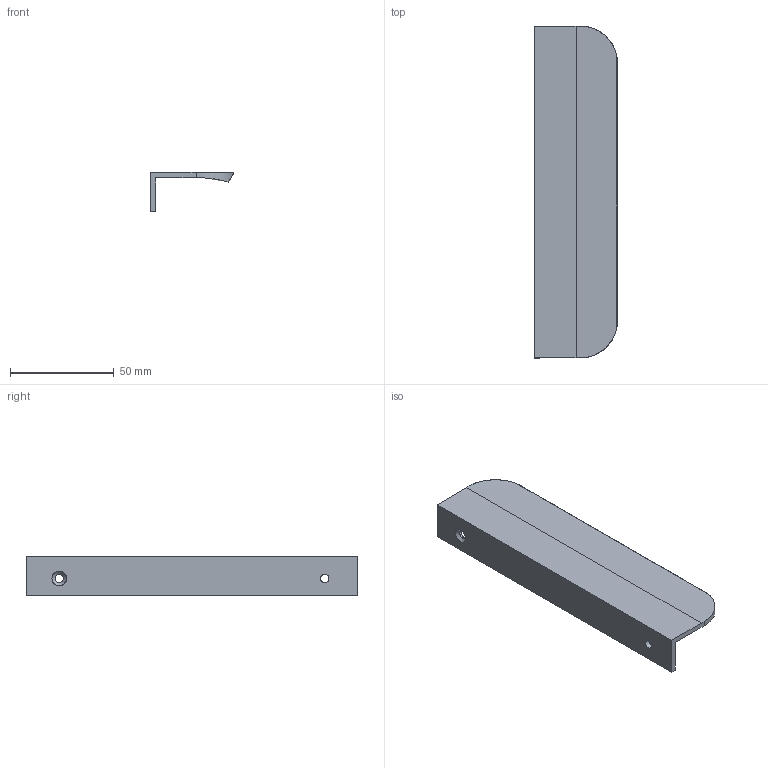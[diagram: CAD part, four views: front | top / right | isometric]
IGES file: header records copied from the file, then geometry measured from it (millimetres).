
Start section: C
Global section: file name: 8336-160 RE7.igs; native system: By Siemens PLM Incorporated; preprocessor: XPlus GENERIC/IGES 16.0.42; author: Author; organization: Title; date: 20230831.103958; units: millimetre
Bounding box: 40 x 160 x 19 mm (x, y, z)
Surface area: 18880 mm2 (no closed solid volume)
Topology: 0 solids, 0 shells, 17 faces, 98 edges, 98 vertices
Faces by surface type: bspline 17
